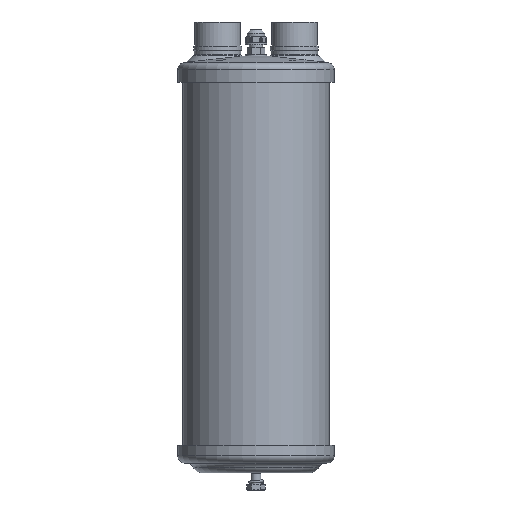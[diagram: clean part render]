
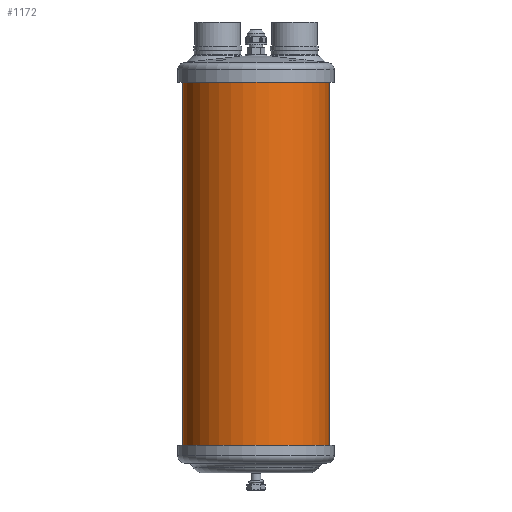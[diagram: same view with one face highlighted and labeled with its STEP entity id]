
A CAD part, front view. The second image highlights one B-rep face of the part: STEP entity #1172.
In plain terms, the highlighted cylindrical face has radius 76.25 mm (diameter 152.5 mm), a full revolution.
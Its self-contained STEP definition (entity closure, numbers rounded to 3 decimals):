
#1172=ADVANCED_FACE('',(#1553,#1554),#1479,.T.);
#1479=CYLINDRICAL_SURFACE('',#4780,76.25);
#1553=FACE_BOUND('',#1770,.T.);
#1554=FACE_BOUND('',#1771,.T.);
#1770=EDGE_LOOP('',(#2228));
#1771=EDGE_LOOP('',(#2229));
#2228=ORIENTED_EDGE('',*,*,#3900,.T.);
#2229=ORIENTED_EDGE('',*,*,#3901,.T.);
#3456=VERTEX_POINT('',#6697);
#3457=VERTEX_POINT('',#6699);
#3900=EDGE_CURVE('',#3456,#3456,#4514,.T.);
#3901=EDGE_CURVE('',#3457,#3457,#4515,.T.);
#4514=CIRCLE('',#4778,76.25);
#4515=CIRCLE('',#4779,76.25);
#4778=AXIS2_PLACEMENT_3D('',#6696,#5340,#5341);
#4779=AXIS2_PLACEMENT_3D('',#6698,#5342,#5343);
#4780=AXIS2_PLACEMENT_3D('',#6700,#5344,#5345);
#5340=DIRECTION('',(0.,0.,-1.));
#5341=DIRECTION('',(1.,0.,0.));
#5342=DIRECTION('',(0.,0.,1.));
#5343=DIRECTION('',(1.,0.,0.));
#5344=DIRECTION('',(0.,0.,1.));
#5345=DIRECTION('',(1.,0.,0.));
#6696=CARTESIAN_POINT('',(0.,0.,391.));
#6697=CARTESIAN_POINT('',(76.25,0.,391.));
#6698=CARTESIAN_POINT('',(0.,0.,-11.754));
#6699=CARTESIAN_POINT('',(76.25,0.,-11.754));
#6700=CARTESIAN_POINT('',(0.,0.,-13.5));
